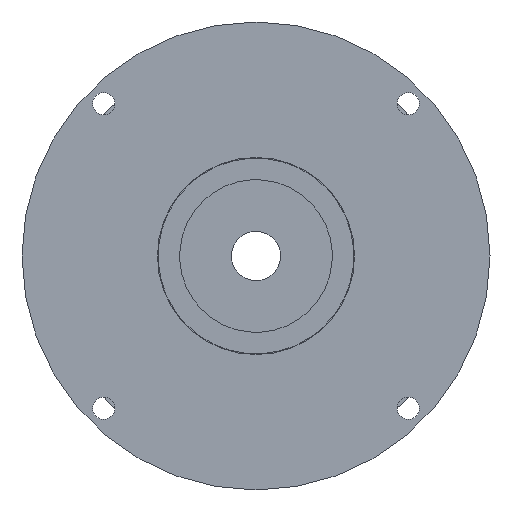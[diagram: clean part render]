
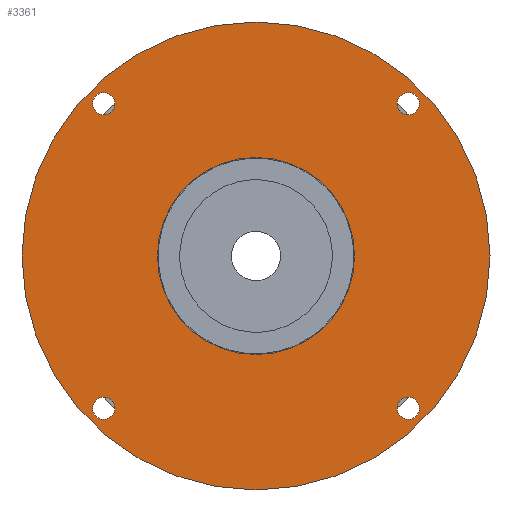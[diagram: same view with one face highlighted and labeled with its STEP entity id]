
A CAD part, left-side view. The second image highlights one B-rep face of the part: STEP entity #3361.
In plain terms, the highlighted planar face has unit normal (-1, 0, 0).
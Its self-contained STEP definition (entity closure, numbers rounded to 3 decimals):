
#162=FACE_BOUND('',#1015,.T.);
#163=FACE_BOUND('',#1016,.T.);
#164=FACE_BOUND('',#1017,.T.);
#165=FACE_BOUND('',#1018,.T.);
#166=FACE_BOUND('',#1019,.T.);
#211=PLANE('',#3801);
#771=FACE_OUTER_BOUND('',#1014,.T.);
#1014=EDGE_LOOP('',(#2754));
#1015=EDGE_LOOP('',(#2755));
#1016=EDGE_LOOP('',(#2756));
#1017=EDGE_LOOP('',(#2757));
#1018=EDGE_LOOP('',(#2758));
#1019=EDGE_LOOP('',(#2759));
#1321=CIRCLE('',#3759,4.5);
#1323=CIRCLE('',#3762,4.5);
#1325=CIRCLE('',#3765,4.5);
#1327=CIRCLE('',#3768,4.5);
#1329=CIRCLE('',#3771,95.);
#1345=CIRCLE('',#3800,40.);
#1596=VERTEX_POINT('',#5770);
#1598=VERTEX_POINT('',#5776);
#1600=VERTEX_POINT('',#5782);
#1602=VERTEX_POINT('',#5788);
#1604=VERTEX_POINT('',#5794);
#1618=VERTEX_POINT('',#5844);
#1984=EDGE_CURVE('',#1596,#1596,#1321,.T.);
#1987=EDGE_CURVE('',#1598,#1598,#1323,.T.);
#1990=EDGE_CURVE('',#1600,#1600,#1325,.T.);
#1993=EDGE_CURVE('',#1602,#1602,#1327,.T.);
#1996=EDGE_CURVE('',#1604,#1604,#1329,.T.);
#2019=EDGE_CURVE('',#1618,#1618,#1345,.T.);
#2754=ORIENTED_EDGE('',*,*,#1996,.F.);
#2755=ORIENTED_EDGE('',*,*,#1984,.T.);
#2756=ORIENTED_EDGE('',*,*,#1987,.T.);
#2757=ORIENTED_EDGE('',*,*,#1990,.T.);
#2758=ORIENTED_EDGE('',*,*,#1993,.T.);
#2759=ORIENTED_EDGE('',*,*,#2019,.T.);
#3361=ADVANCED_FACE('',(#771,#162,#163,#164,#165,#166),#211,.T.);
#3759=AXIS2_PLACEMENT_3D('',#5772,#4610,#4611);
#3762=AXIS2_PLACEMENT_3D('',#5778,#4617,#4618);
#3765=AXIS2_PLACEMENT_3D('',#5784,#4624,#4625);
#3768=AXIS2_PLACEMENT_3D('',#5790,#4631,#4632);
#3771=AXIS2_PLACEMENT_3D('',#5796,#4638,#4639);
#3800=AXIS2_PLACEMENT_3D('',#5846,#4703,#4704);
#3801=AXIS2_PLACEMENT_3D('',#5847,#4705,#4706);
#4610=DIRECTION('center_axis',(1.,0.,0.));
#4611=DIRECTION('ref_axis',(0.,0.,
-1.));
#4617=DIRECTION('center_axis',(1.,0.,0.));
#4618=DIRECTION('ref_axis',(0.,0.,
-1.));
#4624=DIRECTION('center_axis',(1.,0.,0.));
#4625=DIRECTION('ref_axis',(0.,0.,
-1.));
#4631=DIRECTION('center_axis',(1.,0.,0.));
#4632=DIRECTION('ref_axis',(0.,0.,
-1.));
#4638=DIRECTION('center_axis',(1.,0.,0.));
#4639=DIRECTION('ref_axis',(0.,0.,
-1.));
#4703=DIRECTION('center_axis',(1.,0.,0.));
#4704=DIRECTION('ref_axis',(0.,0.,
-1.));
#4705=DIRECTION('center_axis',(-1.,0.,0.));
#4706=DIRECTION('ref_axis',(0.,0.,1.));
#5770=CARTESIAN_POINT('',(-13.,-67.01,-67.974));
#5772=CARTESIAN_POINT('Origin',(-13.,-67.01,-72.474));
#5776=CARTESIAN_POINT('',(-13.,56.734,55.77));
#5778=CARTESIAN_POINT('Origin',(-13.,56.734,51.27));
#5782=CARTESIAN_POINT('',(-13.,-67.01,55.77));
#5784=CARTESIAN_POINT('Origin',(-13.,-67.01,51.27));
#5788=CARTESIAN_POINT('',(-13.,56.734,-67.974));
#5790=CARTESIAN_POINT('Origin',(-13.,56.734,-72.474));
#5794=CARTESIAN_POINT('',(-13.,-100.138,-10.602));
#5796=CARTESIAN_POINT('Origin',(-13.,-5.138,-10.602));
#5844=CARTESIAN_POINT('',(-13.,-45.138,-10.602));
#5846=CARTESIAN_POINT('Origin',(-13.,-5.138,-10.602));
#5847=CARTESIAN_POINT('Origin',(-13.,89.862,-10.602));
